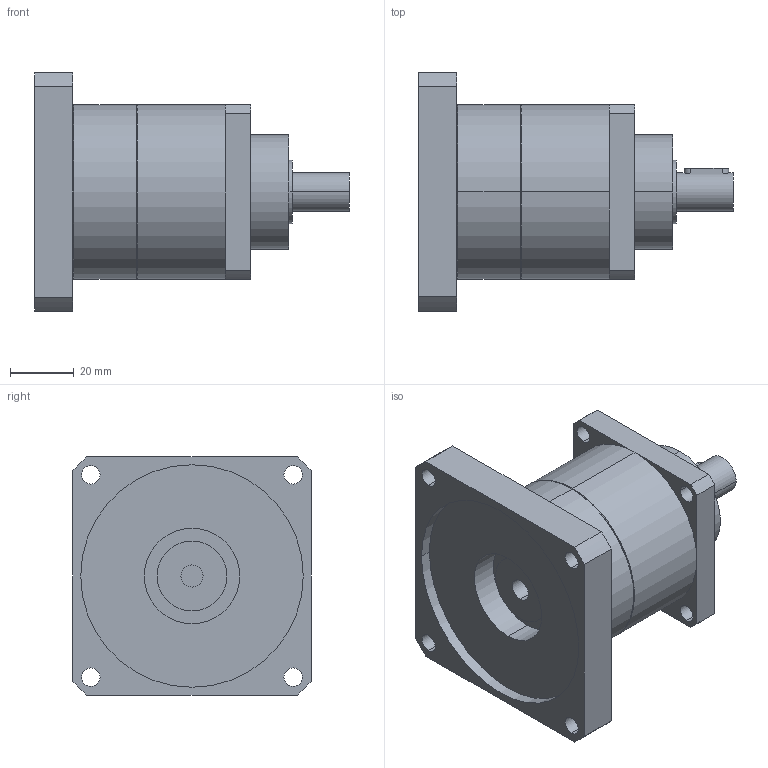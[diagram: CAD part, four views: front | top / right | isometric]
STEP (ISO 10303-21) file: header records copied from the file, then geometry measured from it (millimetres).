
FILE_DESCRIPTION(('CoCreate Modeling STEP Export'),'2;1');
FILE_NAME('GPT55_ig-3-4-5-7-10_12_B5A_7_P24.stp','2014-08-25T14:33:46',(''),(''),'CoCreate Modeling STEP processor for AP214 (Solid Model)','CoCreate Modeling 16.00C 25-Feb-2009 (C) Parametric Technology GmbH','');
FILE_SCHEMA(('AUTOMOTIVE_DESIGN { 1 0 10303 214 1 1 1 1 }'));
Length unit declared in the file: millimetre
Products named in the file (2): GPT55_ig-3-4-5-7-10_12_B5A_7_P24
Assembly tree (1 placements, depth 2):
  GPT55_ig-3-4-5-7-10_12_B5A_7_P24
    GPT55_ig-3-4-5-7-10_12_B5A_7_P24
Bounding box: 99 x 75 x 75 mm (x, y, z)
Volume: 198429.1 mm3; surface area: 31658.6 mm2
Topology: 1 solids, 1 shells, 77 faces, 197 edges, 132 vertices
Faces by surface type: cylinder 46, plane 27, cone 4
Entity records: 2480 total; most frequent: CARTESIAN_POINT 703, ORIENTED_EDGE 394, DIRECTION 318, EDGE_CURVE 197, VERTEX_POINT 132, AXIS2_PLACEMENT_3D 117, EDGE_LOOP 103, VECTOR 84
